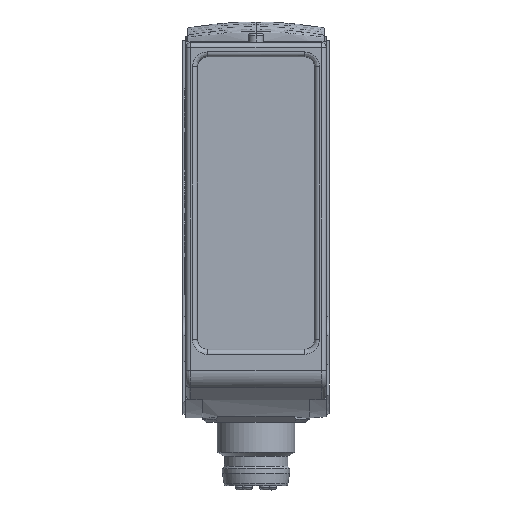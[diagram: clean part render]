
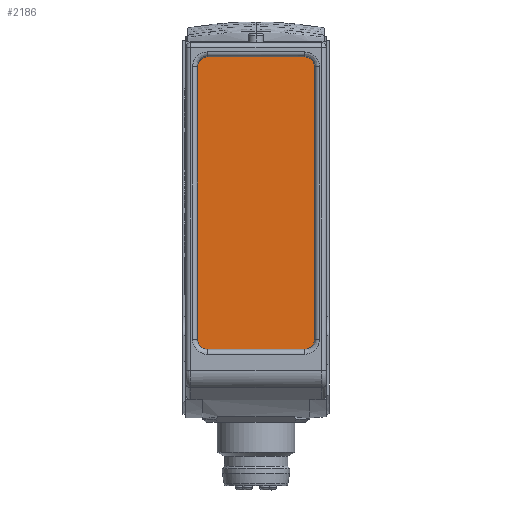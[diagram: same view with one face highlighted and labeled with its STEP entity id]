
A CAD part, top view. The second image highlights one B-rep face of the part: STEP entity #2186.
In plain terms, the highlighted free-form (B-spline) face has degree [1, 1] with [2, 2] control points.
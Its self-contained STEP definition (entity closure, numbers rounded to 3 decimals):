
#1879=CARTESIAN_POINT('V74',(0.133,-46.111,
   34.588));
#1880=VERTEX_POINT('V74',#1879);
#1901=CARTESIAN_POINT('V72',(1.133,-45.111,
   34.588));
#1902=VERTEX_POINT('V72',#1901);
#1908=CARTESIAN_POINT('E97',(0.133,-46.111,
   34.588));
#1909=CARTESIAN_POINT('E97',(1.133,-46.111,
   34.588));
#1910=CARTESIAN_POINT('E97',(1.133,-45.111,
   34.588));
#1918=(BOUNDED_CURVE()B_SPLINE_CURVE(2,(#1908,#1909,#1910),
   .CIRCULAR_ARC.,.F.,.U.)CURVE()GEOMETRIC_REPRESENTATION_ITEM()
   QUASI_UNIFORM_CURVE()RATIONAL_B_SPLINE_CURVE((0.804,
   0.634,1.0))REPRESENTATION_ITEM('E97'));
#1919=EDGE_CURVE('E97',#1880,#1902,#1918,.T.);
#1931=CARTESIAN_POINT('V76',(-9.867,-46.111,
   34.588));
#1932=VERTEX_POINT('V76',#1931);
#1944=CARTESIAN_POINT('E100',(-9.867,-46.111,
   34.588));
#1945=CARTESIAN_POINT('E100',(0.133,-46.111,
   34.588));
#1946=QUASI_UNIFORM_CURVE('E100',1,(#1944,#1945),.POLYLINE_FORM.,.F.,
   .U.);
#1947=EDGE_CURVE('E100',#1932,#1880,#1946,.T.);
#1968=CARTESIAN_POINT('V78',(-10.867,-45.111,
   34.588));
#1969=VERTEX_POINT('V78',#1968);
#1989=CARTESIAN_POINT('E103',(-10.867,
   -45.111,34.588));
#1990=CARTESIAN_POINT('E103',(-10.867,
   -46.111,34.588));
#1991=CARTESIAN_POINT('E103',(-9.867,-46.111,
   34.588));
#1999=(BOUNDED_CURVE()B_SPLINE_CURVE(2,(#1989,#1990,#1991),
   .CIRCULAR_ARC.,.F.,.U.)CURVE()GEOMETRIC_REPRESENTATION_ITEM()
   QUASI_UNIFORM_CURVE()RATIONAL_B_SPLINE_CURVE((0.804,
   0.634,1.0))REPRESENTATION_ITEM('E103'));
#2000=EDGE_CURVE('E103',#1969,#1932,#1999,.T.);
#2012=CARTESIAN_POINT('V80',(-10.867,-17.111,
   34.588));
#2013=VERTEX_POINT('V80',#2012);
#2025=CARTESIAN_POINT('E106',(-10.867,
   -17.111,34.588));
#2026=CARTESIAN_POINT('E106',(-10.867,
   -45.111,34.588));
#2027=QUASI_UNIFORM_CURVE('E106',1,(#2025,#2026),.POLYLINE_FORM.,.F.,
   .U.);
#2028=EDGE_CURVE('E106',#2013,#1969,#2027,.T.);
#2049=CARTESIAN_POINT('V82',(-9.867,-16.111,
   34.588));
#2050=VERTEX_POINT('V82',#2049);
#2070=CARTESIAN_POINT('E109',(-9.867,-16.111,
   34.588));
#2071=CARTESIAN_POINT('E109',(-10.867,
   -16.111,34.588));
#2072=CARTESIAN_POINT('E109',(-10.867,
   -17.111,34.588));
#2080=(BOUNDED_CURVE()B_SPLINE_CURVE(2,(#2070,#2071,#2072),
   .CIRCULAR_ARC.,.F.,.U.)CURVE()GEOMETRIC_REPRESENTATION_ITEM()
   QUASI_UNIFORM_CURVE()RATIONAL_B_SPLINE_CURVE((0.804,
   0.634,1.0))REPRESENTATION_ITEM('E109'));
#2081=EDGE_CURVE('E109',#2050,#2013,#2080,.T.);
#2102=CARTESIAN_POINT('V68',(1.133,-17.111,
   34.588));
#2103=VERTEX_POINT('V68',#2102);
#2124=CARTESIAN_POINT('V69',(0.133,-16.111,
   34.588));
#2125=VERTEX_POINT('V69',#2124);
#2131=CARTESIAN_POINT('E90',(1.133,-17.111,
   34.588));
#2132=CARTESIAN_POINT('E90',(1.133,-16.111,
   34.588));
#2133=CARTESIAN_POINT('E90',(0.133,-16.111,
   34.588));
#2141=(BOUNDED_CURVE()B_SPLINE_CURVE(2,(#2131,#2132,#2133),
   .CIRCULAR_ARC.,.F.,.U.)CURVE()GEOMETRIC_REPRESENTATION_ITEM()
   QUASI_UNIFORM_CURVE()RATIONAL_B_SPLINE_CURVE((0.804,
   0.634,1.0))REPRESENTATION_ITEM('E90'));
#2142=EDGE_CURVE('E90',#2103,#2125,#2141,.T.);
#2159=CARTESIAN_POINT('E112',(0.133,-16.111,
   34.588));
#2160=CARTESIAN_POINT('E112',(-9.867,-16.111,
   34.588));
#2161=QUASI_UNIFORM_CURVE('E112',1,(#2159,#2160),.POLYLINE_FORM.,.F.,
   .U.);
#2162=EDGE_CURVE('E112',#2125,#2050,#2161,.T.);
#2167=CARTESIAN_POINT('F51',(2.503,-50.163,
   34.588));
#2168=CARTESIAN_POINT('F51',(2.503,-14.413,
   34.588));
#2169=CARTESIAN_POINT('F51',(-12.237,-50.163,
   34.588));
#2170=CARTESIAN_POINT('F51',(-12.237,-14.413,
   34.588));
#2171=QUASI_UNIFORM_SURFACE('F51',1,1,((#2167,#2169),(#2168,#2170))
,.PLANE_SURF.,.F.,.F.,.U.);
#2172=ORIENTED_EDGE('F29',*,*,#2162,.T.);
#2173=ORIENTED_EDGE('F28',*,*,#2081,.T.);
#2174=ORIENTED_EDGE('F27',*,*,#2028,.T.);
#2175=ORIENTED_EDGE('F26',*,*,#2000,.T.);
#2176=ORIENTED_EDGE('F25',*,*,#1947,.T.);
#2177=ORIENTED_EDGE('F24',*,*,#1919,.T.);
#2178=CARTESIAN_POINT('E94',(1.133,-45.111,
   34.588));
#2179=CARTESIAN_POINT('E94',(1.133,-17.111,
   34.588));
#2180=QUASI_UNIFORM_CURVE('E94',1,(#2178,#2179),.POLYLINE_FORM.,.F.,
   .U.);
#2181=EDGE_CURVE('E94',#1902,#2103,#2180,.T.);
#2182=ORIENTED_EDGE('E94',*,*,#2181,.T.);
#2183=ORIENTED_EDGE('F22',*,*,#2142,.T.);
#2184=EDGE_LOOP('F51',(#2172,#2173,#2174,#2175,#2176,#2177,#2182,
   #2183));
#2185=FACE_OUTER_BOUND('F51',#2184,.T.);
#2186=ADVANCED_FACE('F51',(#2185),#2171,.T.);
